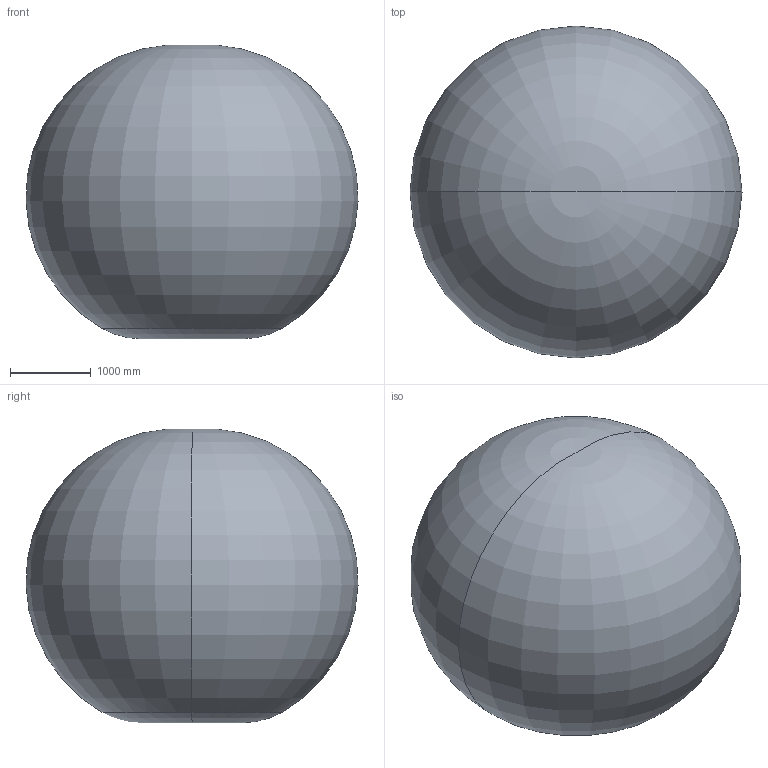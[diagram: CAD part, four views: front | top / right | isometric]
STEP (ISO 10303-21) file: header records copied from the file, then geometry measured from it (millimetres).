
FILE_DESCRIPTION (( 'STEP AP214' ), '1' );
FILE_NAME ('IRB4600_60kg-205_WORKING-SPACE_rev01.STEP', '2025-10-02T09:25:26', ( '' ), ( '' ), 'SwSTEP 2.0', 'SolidWorks 2024', '' );
FILE_SCHEMA (( 'AUTOMOTIVE_DESIGN' ));
Length unit declared in the file: millimetre
Products named in the file (1): IRB4600_60kg-205_WORKING-SPACE_rev01
Bounding box: 4100.26 x 4100.26 x 3626 mm (x, y, z)
Volume: 33179254765.7 mm3; surface area: 54777046.3 mm2
Topology: 1 solids, 2 shells, 8 faces, 20 edges, 8 vertices
Faces by surface type: torus 8
Entity records: 209 total; most frequent: DIRECTION 42, CARTESIAN_POINT 29, ORIENTED_EDGE 24, AXIS2_PLACEMENT_3D 21, CIRCLE 12, EDGE_CURVE 12, VERTEX_POINT 8, ADVANCED_FACE 8
